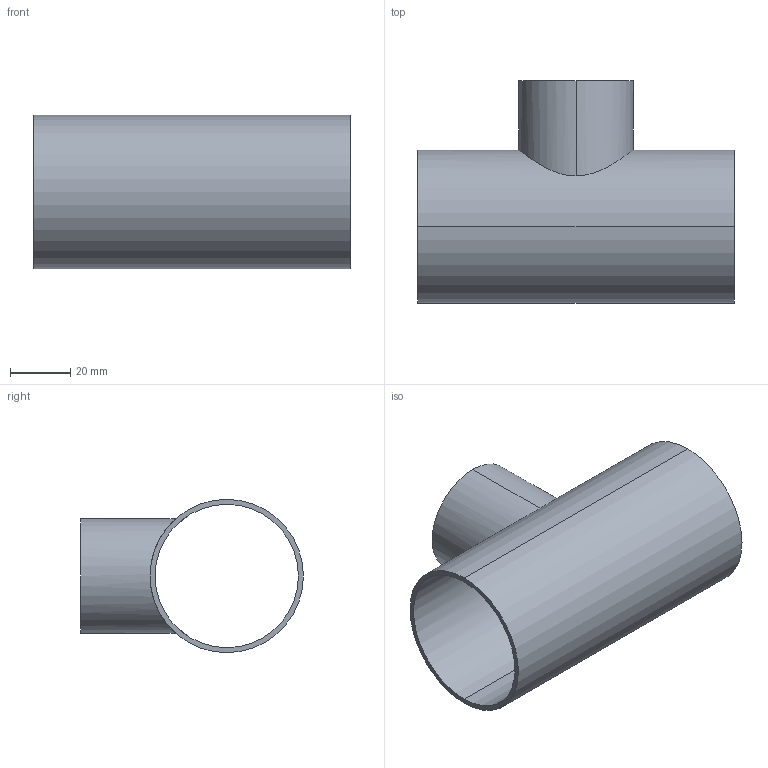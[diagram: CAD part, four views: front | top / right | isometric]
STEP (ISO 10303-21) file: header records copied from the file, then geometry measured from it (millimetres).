
FILE_DESCRIPTION (( 'STEP AP203' ), '1' );
FILE_NAME ('E7RWWW2.0X1.5.STEP', '2018-04-30T18:50:46', ( 'vneprd' ), ( 'Microsoft' ), 'SwSTEP 2.0', 'SolidWorks 2014', '' );
FILE_SCHEMA (( 'CONFIG_CONTROL_DESIGN' ));
Length unit declared in the file: inch
Products named in the file (1): E7RWWW2.0X1.5
Bounding box: 104.78 x 73.81 x 50.8 mm (x, y, z)
Volume: 30064 mm3; surface area: 37110.5 mm2
Topology: 1 solids, 1 shells, 11 faces, 24 edges, 16 vertices
Faces by surface type: cylinder 8, plane 3
Entity records: 621 total; most frequent: CARTESIAN_POINT 284, DIRECTION 56, ORIENTED_EDGE 48, EDGE_CURVE 24, AXIS2_PLACEMENT_3D 24, VERTEX_POINT 16, EDGE_LOOP 16, CIRCLE 12
